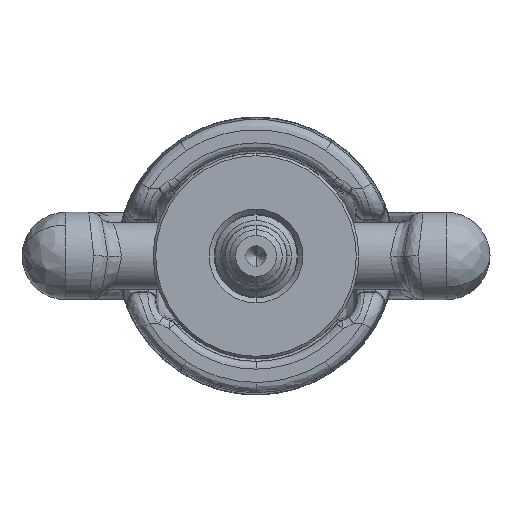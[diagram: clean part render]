
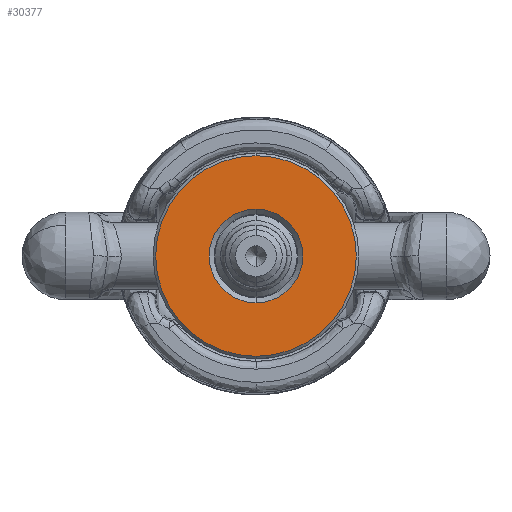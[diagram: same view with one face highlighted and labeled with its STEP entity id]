
A CAD part, front view. The second image highlights one B-rep face of the part: STEP entity #30377.
In plain terms, the highlighted planar face has unit normal (0, -1, 0).
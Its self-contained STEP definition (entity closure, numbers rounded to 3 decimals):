
#1477 = DIRECTION ( 'NONE',  ( 0., 0., -1. ) ) ;
#1478 = DIRECTION ( 'NONE',  ( 0., -1., 0. ) ) ;
#1479 = CARTESIAN_POINT ( 'NONE',  ( 0., 0., 0. ) ) ;
#1480 = AXIS2_PLACEMENT_3D ( 'NONE', #1479, #1478, #1477 ) ;
#1481 = CIRCLE ( 'NONE', #1480, 9.1 ) ;
#1483 = CARTESIAN_POINT ( 'NONE',  ( 0., 0., 9.1 ) ) ;
#1486 = CARTESIAN_POINT ( 'NONE',  ( 0., 0., -9.1 ) ) ;
#9061 = DIRECTION ( 'NONE',  ( 0., 0., 1. ) ) ;
#9062 = DIRECTION ( 'NONE',  ( 0., 1., 0. ) ) ;
#9063 = AXIS2_PLACEMENT_3D ( 'NONE', #9065, #9062, #9061 ) ;
#9065 = CARTESIAN_POINT ( 'NONE',  ( 0., 0., 0. ) ) ;
#9066 = PLANE ( 'NONE',  #9063 ) ;
#9067 = FACE_OUTER_BOUND ( 'NONE', #30474, .T. ) ;
#9068 = FACE_BOUND ( 'NONE', #30378, .T. ) ;
#9069 = DIRECTION ( 'NONE',  ( 0., 0., -1. ) ) ;
#9070 = DIRECTION ( 'NONE',  ( 0., -1., 0. ) ) ;
#9071 = CARTESIAN_POINT ( 'NONE',  ( 0., 0., 0. ) ) ;
#9072 = AXIS2_PLACEMENT_3D ( 'NONE', #9071, #9070, #9069 ) ;
#9073 = CIRCLE ( 'NONE', #9072, 9.1 ) ;
#9081 = DIRECTION ( 'NONE',  ( 0., 0., 1. ) ) ;
#9082 = DIRECTION ( 'NONE',  ( 0., 1., 0. ) ) ;
#9083 = CARTESIAN_POINT ( 'NONE',  ( 0., 0., 0. ) ) ;
#9084 = AXIS2_PLACEMENT_3D ( 'NONE', #9083, #9082, #9081 ) ;
#9086 = CIRCLE ( 'NONE', #9084, 19.5 ) ;
#15696 = VERTEX_POINT ( 'NONE', #29431 ) ;
#15697 = VERTEX_POINT ( 'NONE', #29430 ) ;
#15714 = EDGE_CURVE ( 'NONE', #15696, #15697, #29331, .T. ) ;
#15952 = VERTEX_POINT ( 'NONE', #1483 ) ;
#15954 = EDGE_CURVE ( 'NONE', #15952, #15955, #1481, .T. ) ;
#15955 = VERTEX_POINT ( 'NONE', #1486 ) ;
#29327 = DIRECTION ( 'NONE',  ( 0., 0., 1. ) ) ;
#29328 = DIRECTION ( 'NONE',  ( 0., 1., 0. ) ) ;
#29329 = CARTESIAN_POINT ( 'NONE',  ( 0., 0., 0. ) ) ;
#29330 = AXIS2_PLACEMENT_3D ( 'NONE', #29329, #29328, #29327 ) ;
#29331 = CIRCLE ( 'NONE', #29330, 19.5 ) ;
#29430 = CARTESIAN_POINT ( 'NONE',  ( 0., 0., -19.5 ) ) ;
#29431 = CARTESIAN_POINT ( 'NONE',  ( 0., 0., 19.5 ) ) ;
#30376 = EDGE_CURVE ( 'NONE', #15955, #15952, #9073, .T. ) ;
#30377 = ADVANCED_FACE ( 'NONE', ( #9068, #9067 ), #9066, .F. ) ;
#30378 = EDGE_LOOP ( 'NONE', ( #30379, #30473 ) ) ;
#30379 = ORIENTED_EDGE ( 'NONE', *, *, #30376, .F. ) ;
#30387 = EDGE_CURVE ( 'NONE', #15697, #15696, #9086, .T. ) ;
#30473 = ORIENTED_EDGE ( 'NONE', *, *, #15954, .F. ) ;
#30474 = EDGE_LOOP ( 'NONE', ( #30475, #30476 ) ) ;
#30475 = ORIENTED_EDGE ( 'NONE', *, *, #15714, .F. ) ;
#30476 = ORIENTED_EDGE ( 'NONE', *, *, #30387, .F. ) ;
